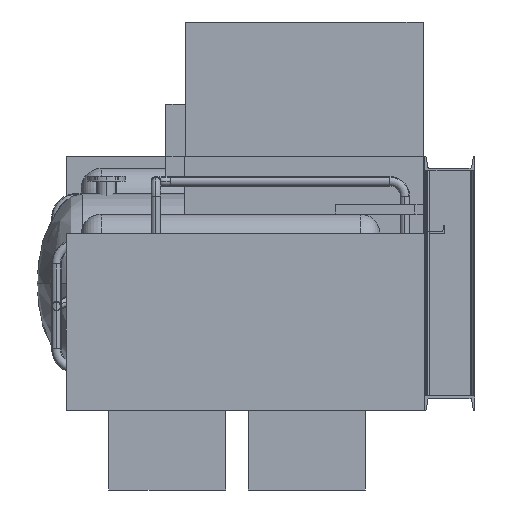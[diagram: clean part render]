
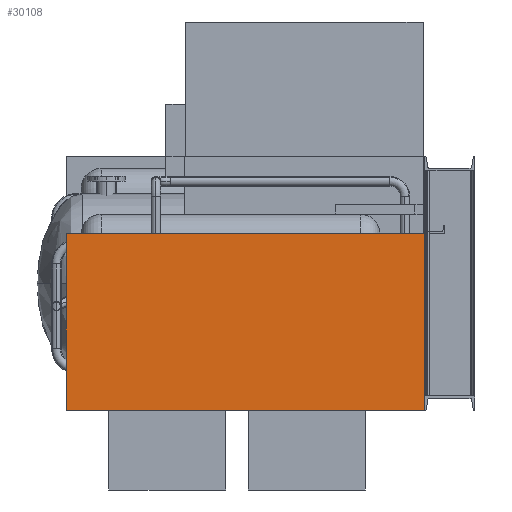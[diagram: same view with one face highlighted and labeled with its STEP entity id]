
A CAD part, left-side view. The second image highlights one B-rep face of the part: STEP entity #30108.
In plain terms, the highlighted planar face has unit normal (-1, 0, 0).
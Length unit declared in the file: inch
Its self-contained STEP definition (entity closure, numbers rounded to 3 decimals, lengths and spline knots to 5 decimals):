
#124 = EDGE_LOOP ( 'NONE', ( #23010, #24016, #23451, #18107 ) ) ;
#202 = CARTESIAN_POINT ( 'NONE',  ( -186., 72., -25.5 ) ) ;
#1400 = DIRECTION ( 'NONE',  ( 0., 0., 1. ) ) ;
#2114 = LINE ( 'NONE', #8577, #22466 ) ;
#2841 = EDGE_CURVE ( 'NONE', #30058, #29636, #22634, .T. ) ;
#3419 = EDGE_CURVE ( 'NONE', #30058, #17888, #18621, .T. ) ;
#5359 = CARTESIAN_POINT ( 'NONE',  ( -186., 0., 10. ) ) ;
#6431 = DIRECTION ( 'NONE',  ( 0., -1., 0. ) ) ;
#8577 = CARTESIAN_POINT ( 'NONE',  ( -186., 72., 10. ) ) ;
#9895 = VECTOR ( 'NONE', #29854, 39.37008 ) ;
#11110 = EDGE_CURVE ( 'NONE', #29636, #21352, #2114, .T. ) ;
#13728 = CARTESIAN_POINT ( 'NONE',  ( -186., 0., -25.5 ) ) ;
#13910 = PLANE ( 'NONE',  #21196 ) ;
#17058 = VECTOR ( 'NONE', #18833, 39.37008 ) ;
#17888 = VERTEX_POINT ( 'NONE', #13728 ) ;
#18107 = ORIENTED_EDGE ( 'NONE', *, *, #3419, .T. ) ;
#18621 = LINE ( 'NONE', #28015, #9895 ) ;
#18739 = CARTESIAN_POINT ( 'NONE',  ( -186., 72., 10. ) ) ;
#18833 = DIRECTION ( 'NONE',  ( 0., 0., 1. ) ) ;
#21196 = AXIS2_PLACEMENT_3D ( 'NONE', #202, #27951, #25882 ) ;
#21352 = VERTEX_POINT ( 'NONE', #5359 ) ;
#22466 = VECTOR ( 'NONE', #6431, 39.37008 ) ;
#22634 = LINE ( 'NONE', #26786, #24148 ) ;
#22816 = LINE ( 'NONE', #30381, #17058 ) ;
#22990 = FACE_OUTER_BOUND ( 'NONE', #124, .T. ) ;
#23010 = ORIENTED_EDGE ( 'NONE', *, *, #26492, .T. ) ;
#23451 = ORIENTED_EDGE ( 'NONE', *, *, #2841, .F. ) ;
#24016 = ORIENTED_EDGE ( 'NONE', *, *, #11110, .F. ) ;
#24148 = VECTOR ( 'NONE', #1400, 39.37008 ) ;
#25882 = DIRECTION ( 'NONE',  ( 0., 0., -1. ) ) ;
#26492 = EDGE_CURVE ( 'NONE', #17888, #21352, #22816, .T. ) ;
#26786 = CARTESIAN_POINT ( 'NONE',  ( -186., 72., -25.5 ) ) ;
#27951 = DIRECTION ( 'NONE',  ( 1., 0., 0. ) ) ;
#28015 = CARTESIAN_POINT ( 'NONE',  ( -186., 72., -25.5 ) ) ;
#29636 = VERTEX_POINT ( 'NONE', #18739 ) ;
#29854 = DIRECTION ( 'NONE',  ( 0., -1., 0. ) ) ;
#30058 = VERTEX_POINT ( 'NONE', #30248 ) ;
#30108 = ADVANCED_FACE ( 'NONE', ( #22990 ), #13910, .F. ) ;
#30248 = CARTESIAN_POINT ( 'NONE',  ( -186., 72., -25.5 ) ) ;
#30381 = CARTESIAN_POINT ( 'NONE',  ( -186., 0., -25.5 ) ) ;
